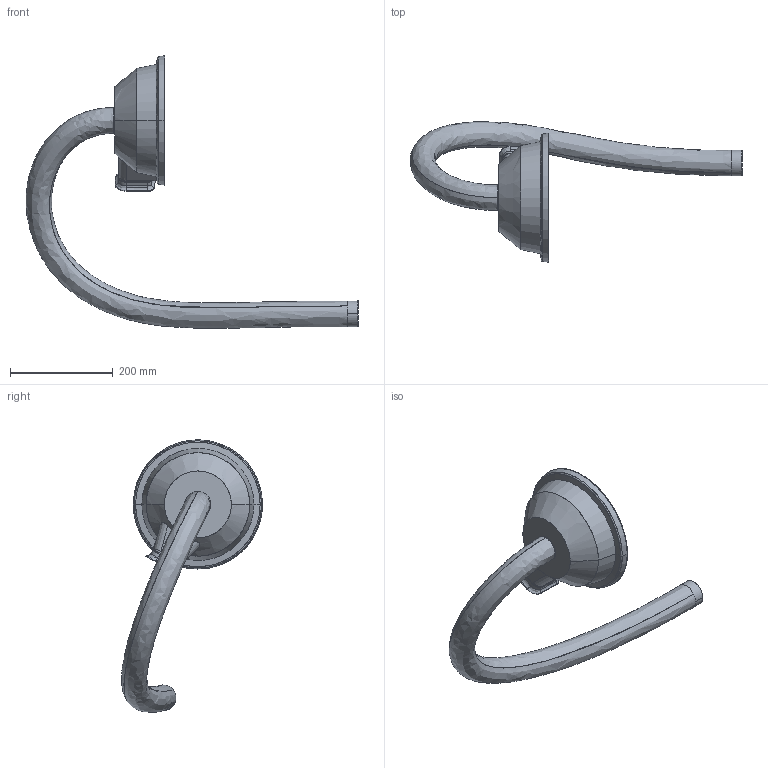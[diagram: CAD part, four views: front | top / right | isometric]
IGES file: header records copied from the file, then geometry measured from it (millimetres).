
Start section: SolidWorks IGES file using analytic representation for surfaces
Global section: file name: C:\DATA\SAP_DOC\LW\IRB 6730\IRB6730-LID-SW_190kg-310_OC_01_SW_J\Export\IRB6730-LID-SW_190kg-310_OC_01_IGES_J\IRB6730-LID-SW_190kg-310_OC_00_LINK03b_CABLE.igs; native system: SolidWorks 2024; preprocessor: SolidWorks 2024; author: SEJOVAS3; date: 260526.111401; units: millimetre
Bounding box: 645.28 x 274.1 x 529.55 mm (x, y, z)
Surface area: 308287.2 mm2 (no closed solid volume)
Topology: 0 solids, 0 shells, 108 faces, 1143 edges, 1143 vertices
Faces by surface type: bspline 66, revolution 42
